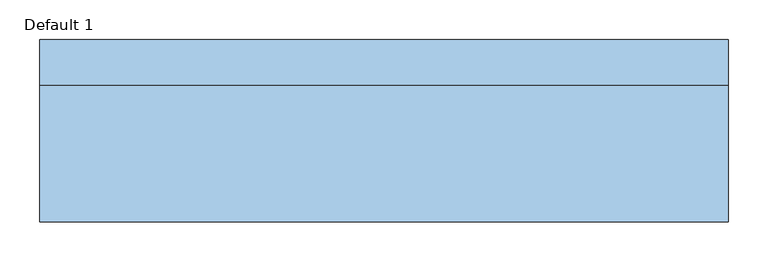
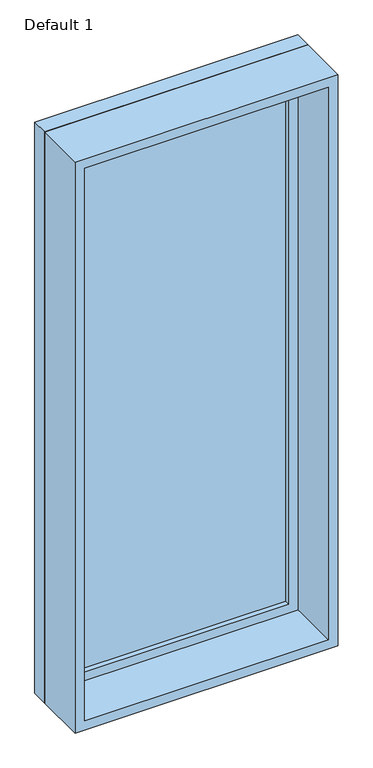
"""IFC4 building model written with IfcOpenShell, lengths in millimetres: window geometry, Planitar-Fixed : Default 1."""

from ifc_helpers import new_model, si_unit, frame, origin, place, context, project, spatial, polyline, outline, extrude, source, transform, mapped, element, save


def default_1_8269edf3(model_context):
    return source(origin(), model_context, "Body", "SweptSolid", [
        extrude(outline(polyline([(2876.6, -412.8), (933.4, -412.8), (933.4, 412.8), (2876.6, 412.8), (2876.6, -412.8)]), holes=[polyline([(2832.6, -368.8), (2832.6, 368.8), (977.4, 368.8), (977.4, -368.8), (2832.6, -368.8)])]), frame((0.0, 70.6, 0.0), z_axis=(0.0, 1.0, 0.0), x_axis=(0.0, 0.0, 1.0)), (0.0, 0.0, 1.0), 44.0),
        extrude(outline(polyline([(2895.6, -431.8), (914.4, -431.8), (914.4, 431.8), (2895.6, 431.8), (2895.6, -431.8)]), holes=[polyline([(2876.6, -412.8), (2876.6, 412.8), (933.4, 412.8), (933.4, -412.8), (2876.6, -412.8)])]), frame((0.0, 70.6, 0.0), z_axis=(0.0, 1.0, 0.0), x_axis=(0.0, 0.0, 1.0)), (0.0, 0.0, 1.0), 56.7),
        extrude(outline(polyline([(2895.6, -431.8), (914.4, -431.8), (914.4, 431.8), (2895.6, 431.8), (2895.6, -431.8)]), holes=[polyline([(2863.6, -399.8), (2863.6, 399.8), (946.4, 399.8), (946.4, -399.8), (2863.6, -399.8)])]), frame((0.0, -101.3, 0.0), z_axis=(0.0, 1.0, 0.0), x_axis=(0.0, 0.0, 1.0)), (0.0, 0.0, 1.0), 171.9),
        extrude(outline(polyline([(-368.8, 98.6), (368.8, 98.6), (368.8, 86.6), (-368.8, 86.6), (-368.8, 98.6)])), frame((0.0, 0.0, 977.4), z_axis=(0.0, 0.0, 1.0), x_axis=(1.0, 0.0, 0.0)), (0.0, 0.0, 1.0), 1855.2),
    ])


if __name__ == "__main__":
    model = new_model("IFC4")
    model_context = context("Model", 3, world=origin())
    ifc_project = project(units=[si_unit("LENGTHUNIT", "METRE", prefix="MILLI")], contexts=[model_context])
    site = spatial("IfcSite", under=ifc_project)
    building = spatial("IfcBuilding", under=site)
    placement = place(None, origin())
    default_1_shape = default_1_8269edf3(model_context)
    element("IfcWindow", 1, ObjectType="Planitar-Fixed : Default 1", at=placement, inside=building, context=model_context, shape_type="MappedRepresentation", body=[
        mapped(default_1_shape, transform((0.0, 0.0, 0.0), x_axis=(1.0, 0.0, 0.0), y_axis=(0.0, 1.0, 0.0), z_axis=(0.0, 0.0, 1.0))),
    ])
    save(model, "model.ifc")
